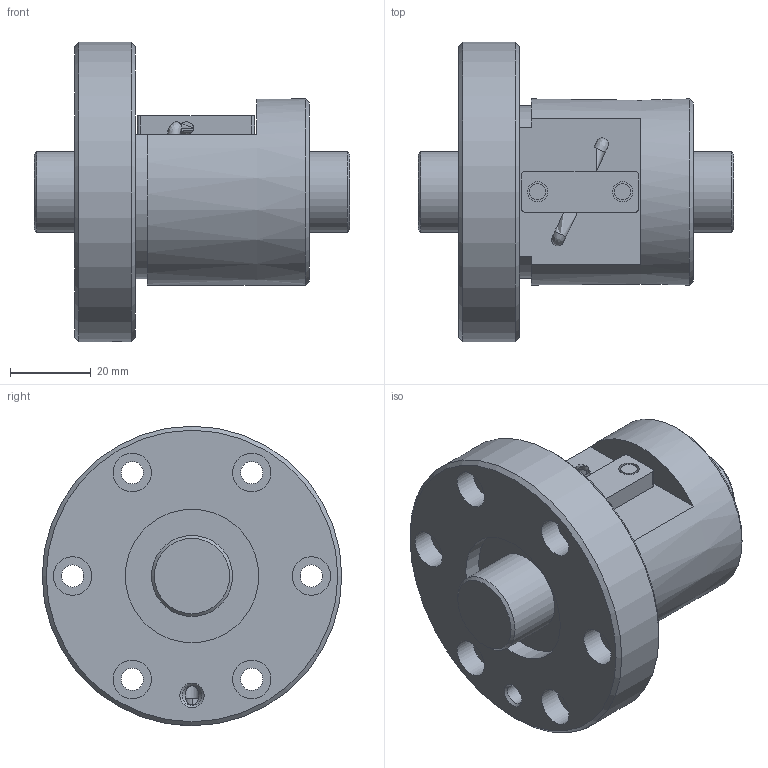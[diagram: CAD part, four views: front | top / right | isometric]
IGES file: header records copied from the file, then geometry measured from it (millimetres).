
Start section: Data from Parasolid IGES Translator 26.0.171, Copyright(c) 2006 Siemens PLM Software. All Rights Reserved.
Global section: file name: BNF2010V-2.5RRG1+78LC0_000_rev.igs; native system: By Siemens PLM Incorporated; preprocessor: XPlus GENERIC/IGES 26.0.171; author: Noname; organization: Noname; date: 20240806.072845; units: millimetre
Bounding box: 78 x 74 x 74 mm (x, y, z)
Surface area: 30028.4 mm2 (no closed solid volume)
Topology: 0 solids, 0 shells, 71 faces, 310 edges, 278 vertices
Faces by surface type: revolution 44, extrusion 27
